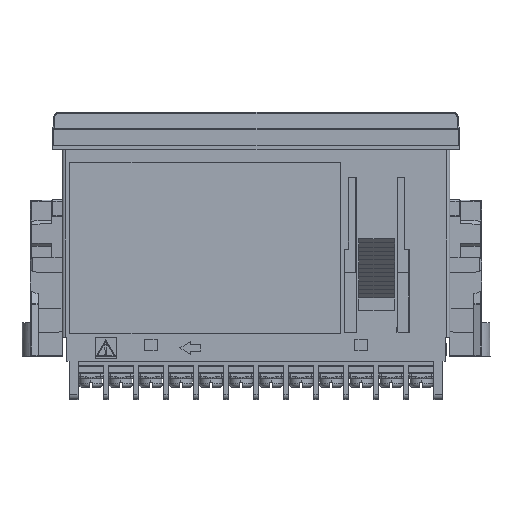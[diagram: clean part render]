
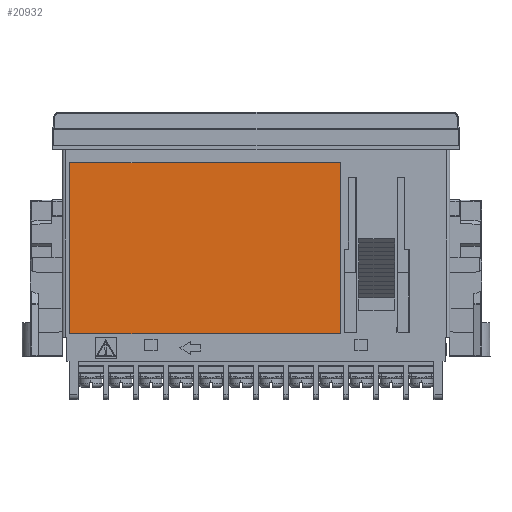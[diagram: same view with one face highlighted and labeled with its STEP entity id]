
A CAD part, left-side view. The second image highlights one B-rep face of the part: STEP entity #20932.
In plain terms, the highlighted planar face has unit normal (-1, 0, 0).
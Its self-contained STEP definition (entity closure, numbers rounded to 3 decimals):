
#2287 = DIRECTION ( 'NONE',  ( 0., -1., 0. ) ) ;
#4344 = FACE_OUTER_BOUND ( 'NONE', #61192, .T. ) ;
#7973 = DIRECTION ( 'NONE',  ( 0., 1., 0. ) ) ;
#10539 = EDGE_CURVE ( 'NONE', #211831, #174078, #218407, .T. ) ;
#20932 = ADVANCED_FACE ( 'NONE', ( #4344 ), #55069, .T. ) ;
#22496 = EDGE_CURVE ( 'NONE', #138623, #146393, #32836, .T. ) ;
#32836 = LINE ( 'NONE', #60398, #202414 ) ;
#48083 = DIRECTION ( 'NONE',  ( 0., 0., 1. ) ) ;
#49023 = CARTESIAN_POINT ( 'NONE',  ( -22.3, 44., -9.35 ) ) ;
#49600 = EDGE_CURVE ( 'NONE', #146393, #211831, #49734, .T. ) ;
#49734 = LINE ( 'NONE', #139299, #208709 ) ;
#50464 = CARTESIAN_POINT ( 'NONE',  ( -22.3, -20., -49.85 ) ) ;
#55069 = PLANE ( 'NONE',  #59000 ) ;
#59000 = AXIS2_PLACEMENT_3D ( 'NONE', #189861, #89101, #207607 ) ;
#60398 = CARTESIAN_POINT ( 'NONE',  ( -22.3, 44., -49.85 ) ) ;
#61192 = EDGE_LOOP ( 'NONE', ( #154728, #160644, #61265, #184091 ) ) ;
#61265 = ORIENTED_EDGE ( 'NONE', *, *, #74441, .T. ) ;
#74441 = EDGE_CURVE ( 'NONE', #174078, #138623, #193534, .T. ) ;
#89101 = DIRECTION ( 'NONE',  ( -1., 0., 0. ) ) ;
#128308 = VECTOR ( 'NONE', #48083, 1000. ) ;
#129194 = CARTESIAN_POINT ( 'NONE',  ( -22.3, -20., -9.35 ) ) ;
#138623 = VERTEX_POINT ( 'NONE', #49023 ) ;
#139299 = CARTESIAN_POINT ( 'NONE',  ( -22.3, 44., -49.85 ) ) ;
#143468 = CARTESIAN_POINT ( 'NONE',  ( -22.3, 44., -9.35 ) ) ;
#146393 = VERTEX_POINT ( 'NONE', #197336 ) ;
#154728 = ORIENTED_EDGE ( 'NONE', *, *, #49600, .T. ) ;
#160644 = ORIENTED_EDGE ( 'NONE', *, *, #10539, .T. ) ;
#174078 = VERTEX_POINT ( 'NONE', #129194 ) ;
#183573 = CARTESIAN_POINT ( 'NONE',  ( -22.3, -20., -49.85 ) ) ;
#184091 = ORIENTED_EDGE ( 'NONE', *, *, #22496, .T. ) ;
#188204 = VECTOR ( 'NONE', #7973, 1000. ) ;
#189861 = CARTESIAN_POINT ( 'NONE',  ( -22.3, -20., -49.85 ) ) ;
#193534 = LINE ( 'NONE', #143468, #188204 ) ;
#195889 = DIRECTION ( 'NONE',  ( 0., 0., -1. ) ) ;
#197336 = CARTESIAN_POINT ( 'NONE',  ( -22.3, 44., -49.85 ) ) ;
#202414 = VECTOR ( 'NONE', #195889, 1000. ) ;
#207607 = DIRECTION ( 'NONE',  ( 0., 0., 1. ) ) ;
#208709 = VECTOR ( 'NONE', #2287, 1000. ) ;
#211831 = VERTEX_POINT ( 'NONE', #50464 ) ;
#218407 = LINE ( 'NONE', #183573, #128308 ) ;
